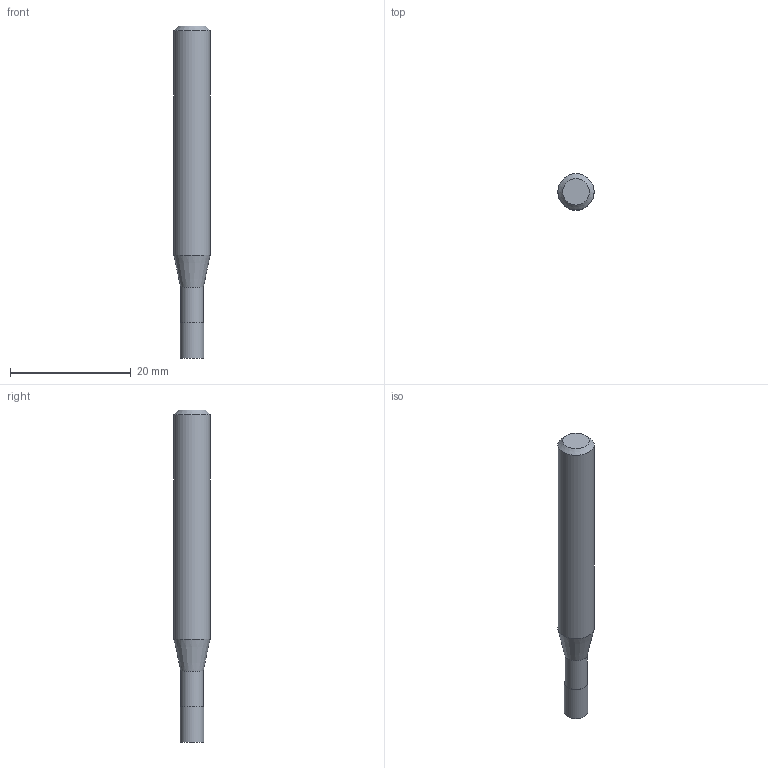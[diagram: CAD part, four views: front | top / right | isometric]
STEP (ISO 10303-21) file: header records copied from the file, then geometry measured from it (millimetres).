
FILE_DESCRIPTION((''),'2;1');
FILE_NAME('C:\Users\nsx150\AppData\Local\Temp\Mastercam 2021\EUJSUNXURU\TEMP.step','2021-04-22T10:28:13',(''),(''),'STEP Write','Mastercam 2021 ... CNC Software, Inc.','');
FILE_SCHEMA(('AUTOMOTIVE_DESIGN'));
Length unit declared in the file: millimetre
Products named in the file (1): None
Bounding box: 6 x 6 x 55 mm (x, y, z)
Volume: 1304.2 mm3; surface area: 993.5 mm2
Topology: 2 solids, 2 shells, 9 faces, 12 edges, 7 vertices
Faces by surface type: plane 4, cylinder 3, cone 2
Full cylindrical faces by diameter (mm): 3.75 x1, 3.9 x1, 6 x1
Entity records: 211 total; most frequent: DIRECTION 36, CARTESIAN_POINT 25, AXIS2_PLACEMENT_3D 18, ORIENTED_EDGE 14, EDGE_LOOP 14, STYLED_ITEM 12, ADVANCED_FACE 9, FACE_BOUND 8
